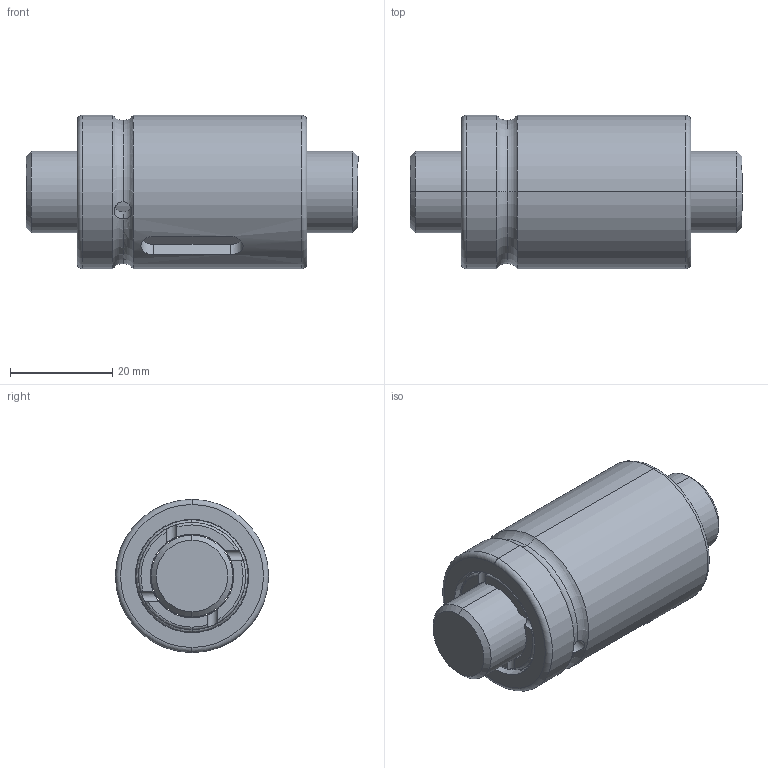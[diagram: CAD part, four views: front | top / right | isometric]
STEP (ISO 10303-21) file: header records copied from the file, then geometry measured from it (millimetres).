
FILE_DESCRIPTION (( 'STEP AP203' ), '1' );
FILE_NAME ('SCIR01605T4-C.STEP', '2020-06-17T07:31:26', ( '' ), ( '' ), 'SwSTEP 2.0', 'SolidWorks 2013', '' );
FILE_SCHEMA (( 'CONFIG_CONTROL_DESIGN' ));
Length unit declared in the file: millimetre
Products named in the file (1): SCIR01605T4-C
Bounding box: 65 x 30 x 30 mm (x, y, z)
Volume: 33196 mm3; surface area: 13212.4 mm2
Topology: 2 solids, 2 shells, 91 faces, 213 edges, 130 vertices
Faces by surface type: cylinder 42, torus 26, plane 19, cone 4
Entity records: 3439 total; most frequent: CARTESIAN_POINT 1299, DIRECTION 446, ORIENTED_EDGE 426, EDGE_CURVE 213, AXIS2_PLACEMENT_3D 197, VERTEX_POINT 130, CIRCLE 105, EDGE_LOOP 99
